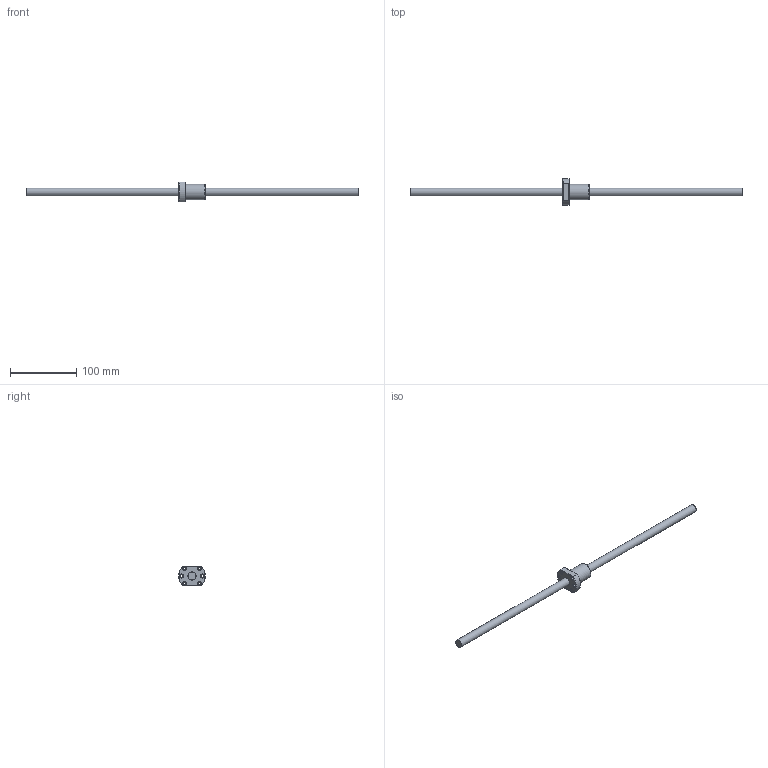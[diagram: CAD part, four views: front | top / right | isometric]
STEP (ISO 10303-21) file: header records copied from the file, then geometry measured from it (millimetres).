
FILE_DESCRIPTION (( 'STEP AP203' ), '1' );
FILE_NAME ('SFU01204D-4.step', '2024-05-14T06:00:42', ( '' ), ( '' ), 'SwSTEP 2.0', 'SolidWorks 2022', '' );
FILE_SCHEMA (( 'CONFIG_CONTROL_DESIGN' ));
Length unit declared in the file: millimetre
Products named in the file (1): SFU01204D-4
Bounding box: 500 x 40 x 30 mm (x, y, z)
Volume: 74825.5 mm3; surface area: 26520.8 mm2
Topology: 2 solids, 2 shells, 39 faces, 113 edges, 71 vertices
Faces by surface type: cone 12, plane 11, cylinder 11, torus 5
Full cylindrical faces by diameter (mm): 4.5 x6, 12 x1, 12.6 x1, 24 x1
Entity records: 1299 total; most frequent: CARTESIAN_POINT 338, DIRECTION 178, ORIENTED_EDGE 166, EDGE_CURVE 83, AXIS2_PLACEMENT_3D 79, EDGE_LOOP 68, VERTEX_POINT 63, FACE_OUTER_BOUND 49
